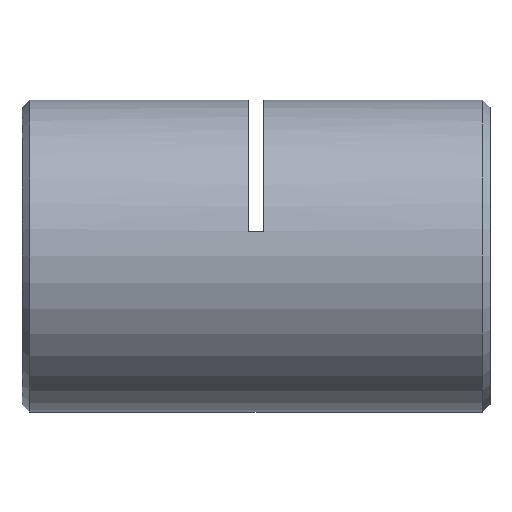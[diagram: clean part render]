
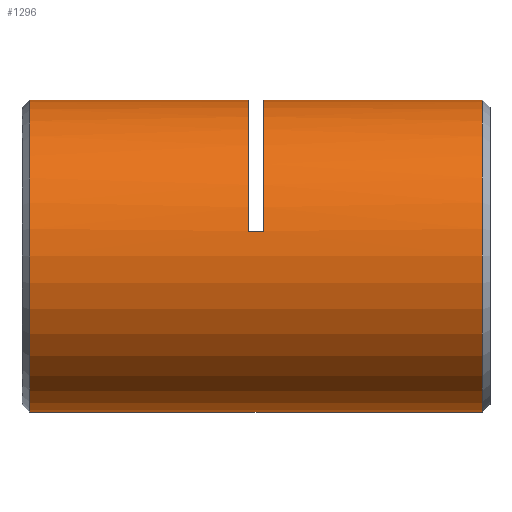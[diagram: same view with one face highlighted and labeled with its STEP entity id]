
A CAD part, left-side view. The second image highlights one B-rep face of the part: STEP entity #1296.
In plain terms, the highlighted cylindrical face has radius 8 mm (diameter 16 mm), a partial arc.
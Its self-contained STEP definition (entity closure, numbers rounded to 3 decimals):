
#81 = VECTOR ( 'NONE', #1271, 1000. ) ;
#120 = CIRCLE ( 'NONE', #330, 8. ) ;
#135 = CARTESIAN_POINT ( 'NONE',  ( 0., 23.85, 8. ) ) ;
#229 = CARTESIAN_POINT ( 'NONE',  ( 0., 0.65, 0. ) ) ;
#264 = VERTEX_POINT ( 'NONE', #1659 ) ;
#330 = AXIS2_PLACEMENT_3D ( 'NONE', #1409, #415, #6119 ) ;
#415 = DIRECTION ( 'NONE',  ( 0., -1., 0. ) ) ;
#562 = DIRECTION ( 'NONE',  ( 0., 1., 0. ) ) ;
#670 = EDGE_CURVE ( 'NONE', #264, #6031, #5097, .T. ) ;
#862 = DIRECTION ( 'NONE',  ( 0., 1., 0. ) ) ;
#984 = CARTESIAN_POINT ( 'NONE',  ( 0., 0.65, -8. ) ) ;
#990 = ORIENTED_EDGE ( 'NONE', *, *, #5337, .T. ) ;
#1038 = CARTESIAN_POINT ( 'NONE',  ( 0., 0.25, 0. ) ) ;
#1121 = VERTEX_POINT ( 'NONE', #6583 ) ;
#1271 = DIRECTION ( 'NONE',  ( 0., 1., 0. ) ) ;
#1296 = ADVANCED_FACE ( 'NONE', ( #2589 ), #4222, .T. ) ;
#1320 = CARTESIAN_POINT ( 'NONE',  ( -7.897, 11.85, 1.28 ) ) ;
#1339 = LINE ( 'NONE', #2899, #3395 ) ;
#1355 = VECTOR ( 'NONE', #2091, 1000. ) ;
#1360 = AXIS2_PLACEMENT_3D ( 'NONE', #4653, #562, #4240 ) ;
#1373 = EDGE_CURVE ( 'NONE', #4023, #1121, #5502, .T. ) ;
#1409 = CARTESIAN_POINT ( 'NONE',  ( 0., 23.85, 0. ) ) ;
#1477 = AXIS2_PLACEMENT_3D ( 'NONE', #2971, #862, #2467 ) ;
#1643 = CARTESIAN_POINT ( 'NONE',  ( -7.897, 12.65, 1.28 ) ) ;
#1659 = CARTESIAN_POINT ( 'NONE',  ( 0., 12.65, 8. ) ) ;
#1728 = ORIENTED_EDGE ( 'NONE', *, *, #5358, .T. ) ;
#1914 = ORIENTED_EDGE ( 'NONE', *, *, #5578, .T. ) ;
#2091 = DIRECTION ( 'NONE',  ( 0., 1., 0. ) ) ;
#2148 = VERTEX_POINT ( 'NONE', #1643 ) ;
#2262 = CARTESIAN_POINT ( 'NONE',  ( 0., 0.65, 8. ) ) ;
#2355 = EDGE_CURVE ( 'NONE', #4023, #2148, #6404, .T. ) ;
#2467 = DIRECTION ( 'NONE',  ( 0., 0., 1. ) ) ;
#2589 = FACE_OUTER_BOUND ( 'NONE', #5937, .T. ) ;
#2773 = AXIS2_PLACEMENT_3D ( 'NONE', #229, #4390, #4894 ) ;
#2824 = CARTESIAN_POINT ( 'NONE',  ( 0., 23.85, -8. ) ) ;
#2899 = CARTESIAN_POINT ( 'NONE',  ( 0., 0.25, 8. ) ) ;
#2971 = CARTESIAN_POINT ( 'NONE',  ( 0., 11.85, 0. ) ) ;
#3102 = ORIENTED_EDGE ( 'NONE', *, *, #670, .T. ) ;
#3156 = DIRECTION ( 'NONE',  ( 0., 0., 1. ) ) ;
#3191 = ORIENTED_EDGE ( 'NONE', *, *, #6186, .T. ) ;
#3395 = VECTOR ( 'NONE', #6497, 1000. ) ;
#3553 = ORIENTED_EDGE ( 'NONE', *, *, #4209, .F. ) ;
#3829 = AXIS2_PLACEMENT_3D ( 'NONE', #1038, #4195, #3156 ) ;
#3888 = LINE ( 'NONE', #4183, #1355 ) ;
#4023 = VERTEX_POINT ( 'NONE', #1320 ) ;
#4039 = VERTEX_POINT ( 'NONE', #984 ) ;
#4183 = CARTESIAN_POINT ( 'NONE',  ( 0., 0.25, -8. ) ) ;
#4195 = DIRECTION ( 'NONE',  ( 0., 1., 0. ) ) ;
#4209 = EDGE_CURVE ( 'NONE', #4039, #4488, #3888, .T. ) ;
#4222 = CYLINDRICAL_SURFACE ( 'NONE', #3829, 8. ) ;
#4240 = DIRECTION ( 'NONE',  ( 0., 0., 1. ) ) ;
#4302 = CARTESIAN_POINT ( 'NONE',  ( 0., 0.25, 8. ) ) ;
#4353 = CARTESIAN_POINT ( 'NONE',  ( -7.897, 12.25, 1.28 ) ) ;
#4390 = DIRECTION ( 'NONE',  ( 0., 1., 0. ) ) ;
#4488 = VERTEX_POINT ( 'NONE', #2824 ) ;
#4492 = VERTEX_POINT ( 'NONE', #2262 ) ;
#4627 = ORIENTED_EDGE ( 'NONE', *, *, #1373, .F. ) ;
#4653 = CARTESIAN_POINT ( 'NONE',  ( 0., 12.65, 0. ) ) ;
#4894 = DIRECTION ( 'NONE',  ( 0., 0., 1. ) ) ;
#5097 = LINE ( 'NONE', #4302, #81 ) ;
#5147 = CIRCLE ( 'NONE', #2773, 8. ) ;
#5337 = EDGE_CURVE ( 'NONE', #6031, #4488, #120, .T. ) ;
#5351 = VECTOR ( 'NONE', #6432, 1000. ) ;
#5358 = EDGE_CURVE ( 'NONE', #2148, #264, #6526, .T. ) ;
#5502 = CIRCLE ( 'NONE', #1477, 8. ) ;
#5551 = ORIENTED_EDGE ( 'NONE', *, *, #2355, .T. ) ;
#5578 = EDGE_CURVE ( 'NONE', #4492, #1121, #1339, .T. ) ;
#5937 = EDGE_LOOP ( 'NONE', ( #3553, #3191, #1914, #4627, #5551, #1728, #3102, #990 ) ) ;
#6031 = VERTEX_POINT ( 'NONE', #135 ) ;
#6119 = DIRECTION ( 'NONE',  ( 0., 0., -1. ) ) ;
#6186 = EDGE_CURVE ( 'NONE', #4039, #4492, #5147, .T. ) ;
#6404 = LINE ( 'NONE', #4353, #5351 ) ;
#6432 = DIRECTION ( 'NONE',  ( 0., 1., 0. ) ) ;
#6497 = DIRECTION ( 'NONE',  ( 0., 1., 0. ) ) ;
#6526 = CIRCLE ( 'NONE', #1360, 8. ) ;
#6583 = CARTESIAN_POINT ( 'NONE',  ( 0., 11.85, 8. ) ) ;
